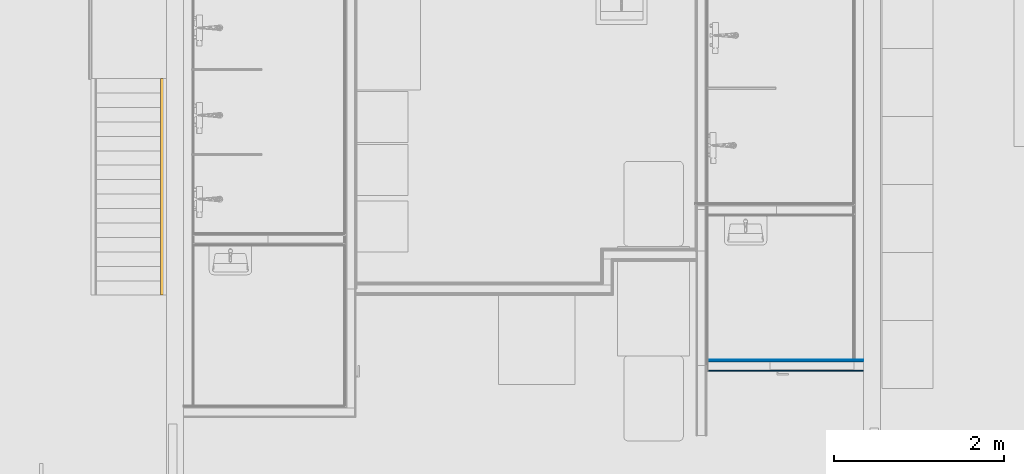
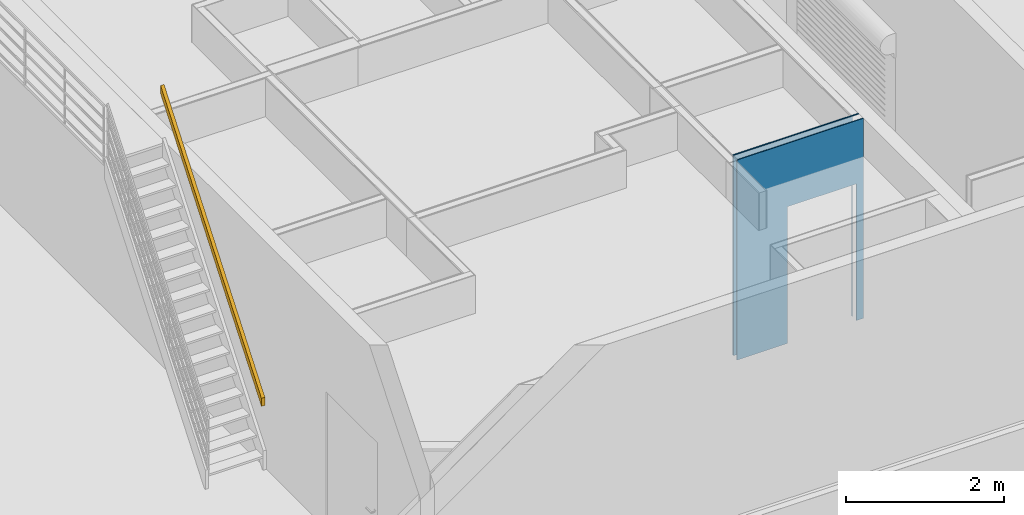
# One storey, part 23 of 67: 3 building element parts, 1 railing, 1 opening, 2 elements without a shape of their own.
"""IFC4 building model written with IfcOpenShell, lengths in millimetres."""

import ifcopenshell
import ifcopenshell.guid

model = None  # the IFC model being written
_history = None  # IfcOwnerHistory: only IFC2X3 demands one
_inside = {}  # id of a spatial element -> (the spatial element, [elements in it])
_under = {}  # id of a project, library or spatial element -> (it, [spatial elements below it])
_declared = {}  # id of a project -> (the project, [libraries it declares])
_typed = {}  # id of a type object -> (the type object, [elements of that type])
_made_of = {}  # id of a material, layer set ... -> (it, [elements and type objects made of it])


def new_model(schema):
    """Start an empty IFC model of exactly this schema.

    Asked for "IFC4X3", IfcOpenShell would pick the latest addendum, in which some entities
    have other attributes; the version numbers below select the first issue.
    IFC2X3 requires an IfcOwnerHistory on every rooted entity: one is made here for all.
    """
    global model, _history
    if schema == "IFC4X3":
        model = ifcopenshell.file(schema_version=(4, 3, 0, 0))
    else:
        model = ifcopenshell.file(schema=schema)
    _inside.clear()
    _under.clear()
    _declared.clear()
    _typed.clear()
    _made_of.clear()
    _history = None
    if model.schema == "IFC2X3":
        org = make("IfcOrganization", Name="unknown")
        user = make(
            "IfcPersonAndOrganization",
            ThePerson=make("IfcPerson", FamilyName="unknown"),
            TheOrganization=org,
        )
        app = make(
            "IfcApplication",
            ApplicationDeveloper=org,
            Version="unknown",
            ApplicationFullName="unknown",
            ApplicationIdentifier="unknown",
        )
        _history = make(
            "IfcOwnerHistory",
            OwningUser=user,
            OwningApplication=app,
            ChangeAction="ADDED",
            CreationDate=0,
        )
    return model


def make(cls, **values):
    """One entity of the class cls with the attributes given. An attribute that is None is left unset."""
    return model.create_entity(
        cls, **{name: value for name, value in values.items() if value is not None}
    )


def entity(cls, *values):
    """Any entity or typed value of the class cls, its attributes in the order of the schema. None: left unset."""
    e = model.create_entity(cls)
    for i, value in enumerate(values):
        if value is not None:
            e[i] = value
    return e


def rooted(cls, **values):
    """An entity with a GlobalId (a new one), such as an element, a storey or a relation."""
    return make(cls, GlobalId=ifcopenshell.guid.new(), OwnerHistory=_history, **values)


def si_unit(unit_type, name, prefix=None):
    """IfcSIUnit, for example si_unit("LENGTHUNIT", "METRE", prefix="MILLI")."""
    return make("IfcSIUnit", UnitType=unit_type, Prefix=prefix, Name=name)


def converted_unit(unit_type, name, factor, base, dimensions=None, offset=None):
    """IfcConversionBasedUnit, such as the inch: factor (a typed value) times the base unit."""
    return make(
        "IfcConversionBasedUnit"
        if offset is None
        else "IfcConversionBasedUnitWithOffset",
        ConversionOffset=offset,
        Dimensions=None
        if dimensions is None
        else entity("IfcDimensionalExponents", *dimensions),
        UnitType=unit_type,
        Name=name,
        ConversionFactor=make(
            "IfcMeasureWithUnit", ValueComponent=factor, UnitComponent=base
        ),
    )


def assignment(units):
    """IfcUnitAssignment: the units of a project."""
    return None if units is None else make("IfcUnitAssignment", Units=units)


def point(xyz):
    """IfcCartesianPoint."""
    return None if xyz is None else make("IfcCartesianPoint", Coordinates=xyz)


def direction(xyz):
    """IfcDirection."""
    return None if xyz is None else make("IfcDirection", DirectionRatios=xyz)


def frame(location, z_axis=None, x_axis=None):
    """IfcAxis2Placement3D, a coordinate frame: its origin and axes. An axis left out is left unset."""
    return make(
        "IfcAxis2Placement3D",
        Location=point(location),
        Axis=direction(z_axis),
        RefDirection=direction(x_axis),
    )


def origin():
    """The frame at (0, 0, 0) with its axes left unset."""
    return frame((0.0, 0.0, 0.0))


def place(relative_to, where):
    """IfcLocalPlacement: puts the frame where relative to a parent placement (None: the world)."""
    return make(
        "IfcLocalPlacement", PlacementRelTo=relative_to, RelativePlacement=where
    )


def context(
    kind, dimensions, precision=None, world=None, true_north=None, identifier=None
):
    """IfcGeometricRepresentationContext, for example the 3D "Model" context."""
    return make(
        "IfcGeometricRepresentationContext",
        ContextIdentifier=identifier,
        ContextType=kind,
        CoordinateSpaceDimension=dimensions,
        Precision=precision,
        WorldCoordinateSystem=world,
        TrueNorth=true_north,
    )


def subcontext(parent, identifier, kind, view, scale=None):
    """IfcGeometricRepresentationSubContext, for example "Body" below "Model"."""
    return make(
        "IfcGeometricRepresentationSubContext",
        ContextIdentifier=identifier,
        ContextType=kind,
        ParentContext=parent,
        TargetScale=scale,
        TargetView=view,
    )


def project(units=None, contexts=None):
    """IfcProject with its units and contexts."""
    return rooted(
        "IfcProject",
        Name="project",
        RepresentationContexts=contexts,
        UnitsInContext=assignment(units),
    )


def spatial(cls, under=None, at=None, **own):
    """A site, building, storey or space (cls), placed at a placement, below another one or the project."""
    s = rooted(cls, ObjectPlacement=at, **own)
    if under is not None:
        _under.setdefault(under.id(), (under, []))[1].append(s)
    return s


def point_list(points):
    """IfcCartesianPointList2D or 3D."""
    cls = (
        "IfcCartesianPointList2D" if len(points[0]) == 2 else "IfcCartesianPointList3D"
    )
    return make(cls, CoordList=points)


def indexed_curve(points, segments=None, self_intersect=None):
    """IfcIndexedPolyCurve: lines and arcs through numbered points (the first is 1)."""
    return make(
        "IfcIndexedPolyCurve",
        Points=point_list(points),
        Segments=segments,
        SelfIntersect=self_intersect,
    )


def outline(outer, holes=None, kind="AREA"):
    """IfcArbitraryClosedProfileDef: a profile drawn as a closed curve; with holes, ...WithVoids."""
    if holes is None:
        return make("IfcArbitraryClosedProfileDef", ProfileType=kind, OuterCurve=outer)
    return make(
        "IfcArbitraryProfileDefWithVoids",
        ProfileType=kind,
        OuterCurve=outer,
        InnerCurves=holes,
    )


def extrude(swept, where, along, depth):
    """IfcExtrudedAreaSolid: the profile swept, set in the frame where, extruded along a direction by depth."""
    return make(
        "IfcExtrudedAreaSolid",
        SweptArea=swept,
        Position=where,
        ExtrudedDirection=direction(along),
        Depth=depth,
    )


def polygons(points, faces, closed=None, point_numbers=None):
    """IfcPolygonalFaceSet: a face is its outer loop, then its inner loops; points numbered from 1."""
    made = []
    for loops in faces:
        if len(loops) == 1:
            made.append(make("IfcIndexedPolygonalFace", CoordIndex=loops[0]))
        else:
            made.append(
                make(
                    "IfcIndexedPolygonalFaceWithVoids",
                    CoordIndex=loops[0],
                    InnerCoordIndices=loops[1:],
                )
            )
    return make(
        "IfcPolygonalFaceSet",
        Coordinates=point_list(points),
        Closed=closed,
        Faces=made,
        PnIndex=point_numbers,
    )


def shape(context_of_items, identifier, shape_type, items):
    """IfcShapeRepresentation: the items that make up one representation, for example the "Body"."""
    return make(
        "IfcShapeRepresentation",
        ContextOfItems=context_of_items,
        RepresentationIdentifier=identifier,
        RepresentationType=shape_type,
        Items=items,
    )


def material(Name=None, Category=None):
    """IfcMaterial."""
    return make("IfcMaterial", Name=Name, Category=Category)


def made_of(thing, what):
    """Note that an element or type object is made of a material, layer set ...; save() writes the relation."""
    if what is not None:
        _made_of.setdefault(what.id(), (what, []))[1].append(thing)
    return thing


def type_object(cls, material=None, **own):
    """A type object (cls), such as IfcWallType, which elements share."""
    return made_of(rooted(cls, **own), material)


def element(
    cls,
    number,
    at=None,
    inside=None,
    cuts=None,
    type_object=None,
    material=None,
    context=None,
    identifier="Body",
    shape_type=None,
    held_by="IfcProductDefinitionShape",
    body=None,
    shapes=None,
    **own,
):
    """One element of the class cls, such as IfcWall. Its Tag is "e" and its number.

    at: its placement. inside: the storey or other place that contains it. cuts: it is an
    opening in that element (IfcRelVoidsElement). A single representation is given by context,
    identifier, shape_type and body (its items); several are given by shapes. held_by: the class
    of the entity that holds the representations. save() writes the other relations.
    """
    e = rooted(cls, Tag="e%d" % number, ObjectPlacement=at, **own)
    if body is not None:
        shapes = [shape(context, identifier, shape_type, body)]
    if shapes is not None:
        e.Representation = make(held_by, Representations=shapes)
    if inside is not None:
        _inside.setdefault(inside.id(), (inside, []))[1].append(e)
    if cuts is not None:
        rooted(
            "IfcRelVoidsElement", RelatingBuildingElement=cuts, RelatedOpeningElement=e
        )
    if type_object is not None:
        _typed.setdefault(type_object.id(), (type_object, []))[1].append(e)
    return made_of(e, material)


def aggregate(whole, parts):
    """IfcRelAggregates: a whole, such as a stair, and the parts it consists of."""
    return rooted("IfcRelAggregates", RelatingObject=whole, RelatedObjects=parts)


def save(model, path):
    """Write the relations noted so far, then the file.

    IfcRelAggregates (storeys below a building ...), IfcRelContainedInSpatialStructure (elements
    in a storey), IfcRelDefinesByType, IfcRelAssociatesMaterial and IfcRelDeclares: one each for
    every whole, place, type object, material and project.
    """
    for whole, parts in _under.values():
        aggregate(whole, parts)
    for where, things in _inside.values():
        rooted(
            "IfcRelContainedInSpatialStructure",
            RelatedElements=things,
            RelatingStructure=where,
        )
    for kind, things in _typed.values():
        rooted("IfcRelDefinesByType", RelatedObjects=things, RelatingType=kind)
    for what, things in _made_of.values():
        rooted("IfcRelAssociatesMaterial", RelatedObjects=things, RelatingMaterial=what)
    for by, libraries in _declared.values():
        rooted("IfcRelDeclares", RelatingContext=by, RelatedDefinitions=libraries)
    model.write(path)


model = new_model("IFC4")

# Units and contexts
model_context = context("Model", 3, precision=0.01, world=origin(), true_north=direction((0.0, 1.0)))
body_context = subcontext(model_context, "Body", "Model", "MODEL_VIEW")
ifc_project = project(units=[si_unit("LENGTHUNIT", "METRE", prefix="MILLI"), si_unit("AREAUNIT", "SQUARE_METRE"), si_unit("VOLUMEUNIT", "CUBIC_METRE"), converted_unit("PLANEANGLEUNIT", "DEGREE", entity("IfcPlaneAngleMeasure", 0.017453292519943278), si_unit("PLANEANGLEUNIT", "RADIAN"), dimensions=[0, 0, 0, 0, 0, 0, 0])], contexts=[model_context])

# Site, building, storey
site_placement = place(None, origin())
site = spatial("IfcSite", under=ifc_project, at=site_placement, Name="Tomtens navn", CompositionType="ELEMENT")
building_placement = place(site_placement, origin())
building = spatial("IfcBuilding", under=site, at=building_placement, Name="Byggets navn", CompositionType="ELEMENT")
storey_placement = place(building_placement, origin())
storey = spatial("IfcBuildingStorey", under=building, at=storey_placement, Name="Level 01", CompositionType="ELEMENT", Elevation=2.1993652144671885e-25)

# Stair, railing
stair_type = type_object("IfcStairType", Name="Assembled Stair:Ståltrapp A", PredefinedType="STRAIGHT_RUN_STAIR")
stair_placement = place(storey_placement, origin())
stair = element("IfcStair", 1, at=stair_placement, inside=storey, type_object=stair_type, Name="Assembled Stair:Stair", PredefinedType="STRAIGHT_RUN_STAIR")
ifc_material_1 = material(Name="<Unnamed>")
railing_type = type_object("IfcRailingType", Name="Railing:900", PredefinedType="NOTDEFINED")
railing_placement = place(stair_placement, origin())
railing = element("IfcRailing", 2, at=railing_placement, type_object=railing_type, material=ifc_material_1, Name="Railing:900", PredefinedType="NOTDEFINED", context=body_context, shape_type="SweptSolid", body=[
    extrude(outline(indexed_curve([(-2126.83116184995, -38.100000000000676), (2028.77969126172, -38.10000000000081), (2126.831161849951, 38.099999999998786), (-2028.7796912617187, 38.09999999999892), (-2126.83116184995, -38.100000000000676)], self_intersect=False)), frame((58351.317076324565, 13236.466456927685, 2697.285284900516), z_axis=(1.0, 0.0, 0.0), x_axis=(0.0, 0.6136281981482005, 0.7895951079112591)), (0.0, 0.0, 1.0), 50.800000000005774),
])
aggregate(stair, [railing])

# Wall, opening, building element parts
wall_type = type_object("IfcWallType", Name="Basic Wall:IV08 Forestia 95 stålstender +15mm kryssfiner+baderomsplater 2", PredefinedType="STANDARD")
wall_placement = place(storey_placement, frame((64776.85352810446, 11134.466456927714, 0.0)))
wall = element("IfcWall", 3, at=wall_placement, inside=storey, type_object=wall_type, Name="Basic Wall:IV08 Forestia 95 stålstender +15mm kryssfiner+baderomsplater 2", PredefinedType="NOTDEFINED")
opening_placement = place(wall_placement, frame((1746.0, 67.0, 0.0)))
element("IfcOpeningElement", 4, at=opening_placement, cuts=wall, Name="Enfløyet:ID06 Tredør 10x21M:1", PredefinedType="OPENING", context=body_context, shape_type="SweptSolid", body=[
    extrude(outline(indexed_curve([(0.0, 3.5193181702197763e-12), (2110.000000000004, 3.5193181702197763e-12), (2110.000000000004, 1009.9999999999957), (0.0, 1009.9999999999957), (0.0, 3.5193181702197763e-12)], self_intersect=False)), frame((0.0, 0.0, 0.0), z_axis=(0.0, -1.0, 0.0), x_axis=(0.0, 0.0, 1.0)), (0.0, 0.0, 1.0), 134.0),
])
ifc_material_2 = material(Name="NO_Kryssfiner", Category="Tre")
building_element_part_1_placement = place(wall_placement, frame((13.0, 41.0, 0.0)))
building_element_part_1 = element("IfcBuildingElementPart", 5, at=building_element_part_1_placement, material=ifc_material_2, Name="NO_Kryssfiner", context=body_context, shape_type="Tessellation", body=[
    polygons([(1732.9999999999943, 15.0, 7.331217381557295e-26), (1732.9999999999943, 15.0, 2110.000000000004), (723.0000000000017, 15.000000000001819, 2110.000000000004), (723.0000000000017, 15.000000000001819, 7.331217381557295e-26), (1.7023339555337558e-12, 15.000000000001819, 7.331217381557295e-26), (1.7023339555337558e-12, 15.000000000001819, 3080.0), (1.7023339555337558e-12, 15.000000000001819, 3087.999999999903), (1832.9999999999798, 15.0, 3087.999999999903), (1832.9999999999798, 15.0, 3081.346137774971), (1737.9999999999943, 15.0, 3081.346137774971), (1737.9999999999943, 15.0, 3080.0), (1737.9999999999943, 15.0, 7.331217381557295e-26), (1732.9999999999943, 0.0, 7.331217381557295e-26), (1737.9999999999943, 0.0, 7.331217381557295e-26), (1.7000521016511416e-12, 1.8189894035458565e-12, 7.331217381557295e-26), (1.7000521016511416e-12, 1.8189894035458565e-12, 3080.0), (1.7000521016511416e-12, 1.8189894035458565e-12, 3087.999999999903), (723.0000000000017, 1.8189894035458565e-12, 7.331217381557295e-26), (723.0000000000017, 1.8189894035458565e-12, 2110.000000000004), (1732.9999999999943, 0.0, 2110.000000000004), (1737.9999999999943, 0.0, 3080.0), (1737.9999999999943, 0.0, 3081.346137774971), (1832.9999999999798, 0.0, 3081.346137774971), (1832.9999999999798, 0.0, 3087.999999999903)], [[[1, 2, 3, 4, 5, 6, 7, 8, 9, 10, 11, 12]], [[13, 1, 12, 14]], [[6, 5, 15, 16, 17, 7]], [[5, 4, 18, 15]], [[4, 3, 19, 18]], [[3, 2, 20, 19]], [[2, 1, 13, 20]], [[15, 18, 19, 20, 13, 14, 21, 22, 23, 24, 17, 16]], [[12, 11, 10, 22, 21, 14]], [[9, 8, 24, 23]], [[8, 7, 17, 24]], [[10, 9, 23, 22]]], closed=True),
])
ifc_material_3 = material(Name="NO_platekledning forestia", Category="Tre")
building_element_part_2_placement = place(wall_placement, frame((0.0, -67.0, 0.0)))
building_element_part_2 = element("IfcBuildingElementPart", 6, at=building_element_part_2_placement, material=ifc_material_3, Name="NO_platekledning forestia", context=body_context, shape_type="Tessellation", body=[
    polygons([(13.000000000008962, 13.0, 3080.0), (1.6856003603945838e-12, 13.0, 3080.0), (1.683622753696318e-12, 0.0, 3080.0), (13.00000000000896, 0.0, 3080.0), (1845.999999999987, 12.999999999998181, 7.331217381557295e-26), (1746.0000000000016, 12.999999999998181, 7.331217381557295e-26), (1746.0000000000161, 12.999999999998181, 2110.0000000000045), (736.000000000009, 13.0, 2110.0000000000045), (736.000000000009, 13.0, 7.331217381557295e-26), (1.6856003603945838e-12, 13.0, 7.331217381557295e-26), (13.000000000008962, 13.0, 3087.999999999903), (1845.999999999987, 12.999999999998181, 3087.999999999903), (1845.999999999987, 12.999999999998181, 3080.0), (1845.999999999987, 0.0, 2.1993652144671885e-25), (1746.0000000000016, 0.0, 2.1993652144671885e-25), (1845.999999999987, 0.0, 3087.999999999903), (1845.999999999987, 0.0, 3080.0), (736.000000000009, 0.0, 2.1993652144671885e-25), (1.683622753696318e-12, 0.0, 2.1993652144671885e-25), (736.000000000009, 0.0, 2110.000000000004), (1746.0000000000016, 0.0, 2110.000000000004), (13.00000000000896, 0.0, 3087.999999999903)], [[[1, 2, 3, 4]], [[5, 6, 7, 8, 9, 10, 2, 1, 11, 12, 13]], [[6, 5, 14, 15]], [[5, 13, 12, 16, 17, 14]], [[10, 9, 18, 19]], [[9, 8, 20, 18]], [[8, 7, 21, 20]], [[7, 6, 15, 21]], [[2, 10, 19, 3]], [[19, 18, 20, 21, 15, 14, 17, 16, 22, 4, 3]], [[12, 11, 22, 16]], [[11, 1, 4, 22]]], closed=True),
])
ifc_material_4 = material(Name="NO_Baderomsplater", Category="Tre")
building_element_part_3_placement = place(wall_placement, frame((13.0, 56.0, 0.0)))
building_element_part_3 = element("IfcBuildingElementPart", 7, at=building_element_part_3_placement, material=ifc_material_4, Name="NO_Baderomsplater", context=body_context, shape_type="Tessellation", body=[
    polygons([(1.7023339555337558e-12, 1.8189894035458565e-12, 3080.0), (1.7023339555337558e-12, 1.8189894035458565e-12, 7.331217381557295e-26), (723.0000000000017, 1.8189894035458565e-12, 7.331217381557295e-26), (723.0000000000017, 1.8189894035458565e-12, 2110.000000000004), (1722.9999999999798, 0.0, 2110.000000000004), (1722.9999999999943, 0.0, 3080.0), (1722.9999999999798, 0.0, 3081.346137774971), (1832.9999999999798, 0.0, 3081.346137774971), (1832.9999999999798, 0.0, 3087.999999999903), (1.7023339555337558e-12, 1.8189894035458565e-12, 3087.999999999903), (1.704007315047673e-12, 11.000000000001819, 3087.999999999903), (1.704007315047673e-12, 11.000000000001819, 3080.0), (1.704007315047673e-12, 11.000000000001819, 2.1993652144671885e-25), (723.0000000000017, 11.000000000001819, 2.1993652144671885e-25), (723.0000000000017, 11.000000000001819, 2110.000000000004), (1722.9999999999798, 11.000000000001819, 2110.000000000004), (1832.9999999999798, 11.000000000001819, 3087.999999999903), (1832.9999999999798, 11.000000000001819, 3081.346137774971), (1722.9999999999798, 11.000000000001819, 3081.346137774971), (1722.9999999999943, 11.000000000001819, 3080.0)], [[[1, 2, 3, 4, 5, 6, 7, 8, 9, 10]], [[2, 1, 10, 11, 12, 13]], [[3, 2, 13, 14]], [[4, 3, 14, 15]], [[4, 15, 16, 5]], [[15, 14, 13, 12, 11, 17, 18, 19, 20, 16]], [[6, 5, 16, 20, 19, 7]], [[9, 8, 18, 17]], [[10, 9, 17, 11]], [[8, 7, 19, 18]]], closed=True),
])
aggregate(wall, [building_element_part_1, building_element_part_2, building_element_part_3])

save(model, "model.ifc")
